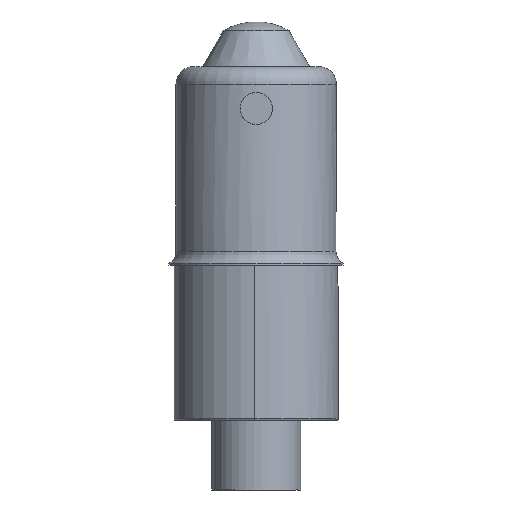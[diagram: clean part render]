
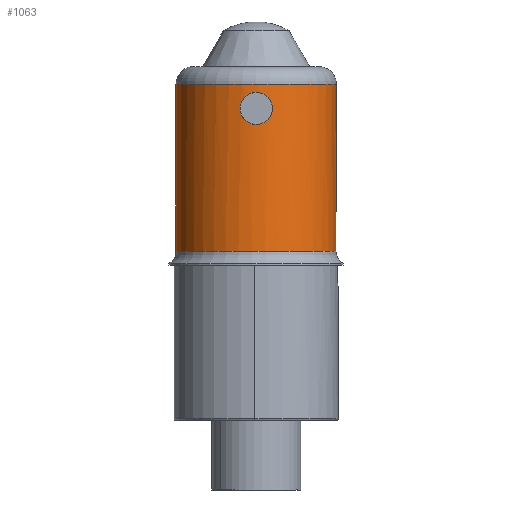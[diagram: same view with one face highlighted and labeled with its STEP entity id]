
A CAD part, front view. The second image highlights one B-rep face of the part: STEP entity #1063.
In plain terms, the highlighted cylindrical face has radius 4.5 mm (diameter 9 mm), a partial arc.
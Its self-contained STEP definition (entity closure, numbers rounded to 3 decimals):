
#16 = CARTESIAN_POINT ( 'NONE',  ( 0., -4.5, 7.9 ) ) ;
#37 = CARTESIAN_POINT ( 'NONE',  ( 0.786, -4.431, 9.254 ) ) ;
#57 = LINE ( 'NONE', #134, #4105 ) ;
#126 = CARTESIAN_POINT ( 'NONE',  ( 0., 0., 10.15 ) ) ;
#133 = ORIENTED_EDGE ( 'NONE', *, *, #3840, .T. ) ;
#134 = CARTESIAN_POINT ( 'NONE',  ( 4.5, 0., 11.15 ) ) ;
#138 = CARTESIAN_POINT ( 'NONE',  ( -0.9, -4.409, 8.682 ) ) ;
#141 = DIRECTION ( 'NONE',  ( 0., 0., 1. ) ) ;
#160 = CARTESIAN_POINT ( 'NONE',  ( -0.553, -4.467, 9.52 ) ) ;
#166 = DIRECTION ( 'NONE',  ( 0., 0., 1. ) ) ;
#170 = AXIS2_PLACEMENT_3D ( 'NONE', #2151, #2438, #4024 ) ;
#175 = CARTESIAN_POINT ( 'NONE',  ( -0.719, -4.443, 8.247 ) ) ;
#181 = VERTEX_POINT ( 'NONE', #2607 ) ;
#231 = DIRECTION ( 'NONE',  ( 1., 0., 0. ) ) ;
#291 = EDGE_CURVE ( 'NONE', #2353, #181, #512, .T. ) ;
#328 = CARTESIAN_POINT ( 'NONE',  ( 0.454, -4.478, 8.014 ) ) ;
#356 = CARTESIAN_POINT ( 'NONE',  ( 0.236, -4.495, 9.676 ) ) ;
#428 = CARTESIAN_POINT ( 'NONE',  ( 4.5, 0., 3.006 ) ) ;
#451 = CARTESIAN_POINT ( 'NONE',  ( -0.876, -4.414, 9.036 ) ) ;
#472 = CARTESIAN_POINT ( 'NONE',  ( -0.9, -4.409, 8.919 ) ) ;
#512 = CIRCLE ( 'NONE', #3139, 4.5 ) ;
#578 = CARTESIAN_POINT ( 'NONE',  ( 0., -4.5, 9.7 ) ) ;
#599 = EDGE_CURVE ( 'NONE', #2780, #1246, #1309, .T. ) ;
#680 = CIRCLE ( 'NONE', #2722, 4.5 ) ;
#783 = DIRECTION ( 'NONE',  ( -1., 0., 0. ) ) ;
#790 = CARTESIAN_POINT ( 'NONE',  ( 0., -4.5, 9.7 ) ) ;
#915 = EDGE_CURVE ( 'NONE', #3279, #1124, #1175, .T. ) ;
#922 = CARTESIAN_POINT ( 'NONE',  ( 0.119, -4.5, 7.9 ) ) ;
#952 = CARTESIAN_POINT ( 'NONE',  ( 0.554, -4.467, 8.081 ) ) ;
#1063 = ADVANCED_FACE ( 'NONE', ( #1757, #3268 ), #1550, .T. ) ;
#1064 = DIRECTION ( 'NONE',  ( 1., 0., 0. ) ) ;
#1094 = CARTESIAN_POINT ( 'NONE',  ( -0.454, -4.478, 8.014 ) ) ;
#1124 = VERTEX_POINT ( 'NONE', #4086 ) ;
#1175 = B_SPLINE_CURVE_WITH_KNOTS ( 'NONE', 3,
 ( #790, #3969, #4002, #1733, #160, #3660, #2048, #451, #472, #138, #2680, #3010, #175, #3335, #1094, #2082, #2400, #2375 ),
 .UNSPECIFIED., .F., .F.,
 ( 4, 2, 2, 2, 2, 2, 2, 2, 4 ),
 ( 0.003, 0.003, 0.004, 0.004, 0.004, 0.005, 0.005, 0.005, 0.006 ),
 .UNSPECIFIED. ) ;
#1228 = EDGE_CURVE ( 'NONE', #2353, #1246, #57, .T. ) ;
#1246 = VERTEX_POINT ( 'NONE', #428 ) ;
#1309 = CIRCLE ( 'NONE', #1966, 4.5 ) ;
#1403 = DIRECTION ( 'NONE',  ( 0., 0., -1. ) ) ;
#1421 = CARTESIAN_POINT ( 'NONE',  ( 4.472, -0.5, 3.006 ) ) ;
#1550 = CYLINDRICAL_SURFACE ( 'NONE', #170, 4.5 ) ;
#1613 = CARTESIAN_POINT ( 'NONE',  ( 0.719, -4.443, 8.247 ) ) ;
#1645 = ORIENTED_EDGE ( 'NONE', *, *, #1228, .F. ) ;
#1733 = CARTESIAN_POINT ( 'NONE',  ( -0.453, -4.478, 9.586 ) ) ;
#1757 = FACE_OUTER_BOUND ( 'NONE', #1968, .T. ) ;
#1853 = DIRECTION ( 'NONE',  ( 0., 0., 1. ) ) ;
#1911 = ORIENTED_EDGE ( 'NONE', *, *, #291, .T. ) ;
#1922 = CARTESIAN_POINT ( 'NONE',  ( 0.72, -4.443, 9.353 ) ) ;
#1966 = AXIS2_PLACEMENT_3D ( 'NONE', #2797, #1853, #231 ) ;
#1968 = EDGE_LOOP ( 'NONE', ( #1645, #1911, #3237, #133, #3662, #3085 ) ) ;
#1970 = CARTESIAN_POINT ( 'NONE',  ( 0.9, -4.409, 8.917 ) ) ;
#2043 = VERTEX_POINT ( 'NONE', #2541 ) ;
#2048 = CARTESIAN_POINT ( 'NONE',  ( -0.786, -4.431, 9.255 ) ) ;
#2052 = CARTESIAN_POINT ( 'NONE',  ( 0., 0., 0.793 ) ) ;
#2082 = CARTESIAN_POINT ( 'NONE',  ( -0.238, -4.495, 7.924 ) ) ;
#2123 = EDGE_CURVE ( 'NONE', #1124, #3279, #3204, .T. ) ;
#2151 = CARTESIAN_POINT ( 'NONE',  ( 0., 0., 11.15 ) ) ;
#2175 = EDGE_CURVE ( 'NONE', #181, #2043, #2241, .T. ) ;
#2241 = LINE ( 'NONE', #2575, #4054 ) ;
#2262 = EDGE_LOOP ( 'NONE', ( #2615, #3163 ) ) ;
#2271 = CARTESIAN_POINT ( 'NONE',  ( 0.876, -4.414, 8.563 ) ) ;
#2353 = VERTEX_POINT ( 'NONE', #3526 ) ;
#2375 = CARTESIAN_POINT ( 'NONE',  ( 0., -4.5, 7.9 ) ) ;
#2400 = CARTESIAN_POINT ( 'NONE',  ( -0.119, -4.5, 7.9 ) ) ;
#2438 = DIRECTION ( 'NONE',  ( 0., 0., -1. ) ) ;
#2541 = CARTESIAN_POINT ( 'NONE',  ( -4.5, 0., 0.793 ) ) ;
#2575 = CARTESIAN_POINT ( 'NONE',  ( -4.5, 0., 11.15 ) ) ;
#2591 = CARTESIAN_POINT ( 'NONE',  ( 0.786, -4.431, 8.347 ) ) ;
#2607 = CARTESIAN_POINT ( 'NONE',  ( -4.5, 0., 10.15 ) ) ;
#2615 = ORIENTED_EDGE ( 'NONE', *, *, #2123, .F. ) ;
#2680 = CARTESIAN_POINT ( 'NONE',  ( -0.876, -4.414, 8.564 ) ) ;
#2722 = AXIS2_PLACEMENT_3D ( 'NONE', #2052, #166, #783 ) ;
#2780 = VERTEX_POINT ( 'NONE', #1421 ) ;
#2797 = CARTESIAN_POINT ( 'NONE',  ( 0., 0., 3.006 ) ) ;
#2828 = LINE ( 'NONE', #3040, #4082 ) ;
#2904 = CARTESIAN_POINT ( 'NONE',  ( 0.877, -4.414, 9.035 ) ) ;
#3010 = CARTESIAN_POINT ( 'NONE',  ( -0.786, -4.431, 8.347 ) ) ;
#3040 = CARTESIAN_POINT ( 'NONE',  ( 4.472, -0.5, 11.15 ) ) ;
#3085 = ORIENTED_EDGE ( 'NONE', *, *, #599, .T. ) ;
#3116 = CARTESIAN_POINT ( 'NONE',  ( 4.472, -0.5, 0.793 ) ) ;
#3139 = AXIS2_PLACEMENT_3D ( 'NONE', #126, #1403, #1064 ) ;
#3163 = ORIENTED_EDGE ( 'NONE', *, *, #915, .F. ) ;
#3204 = B_SPLINE_CURVE_WITH_KNOTS ( 'NONE', 3,
 ( #16, #922, #3643, #328, #952, #1613, #2591, #2271, #3525, #1970, #2904, #37, #1922, #3574, #3215, #356, #3247, #3911 ),
 .UNSPECIFIED., .F., .F.,
 ( 4, 2, 2, 2, 2, 2, 2, 2, 4 ),
 ( 0., 0., 0.001, 0.001, 0.001, 0.002, 0.002, 0.002, 0.003 ),
 .UNSPECIFIED. ) ;
#3215 = CARTESIAN_POINT ( 'NONE',  ( 0.454, -4.478, 9.586 ) ) ;
#3237 = ORIENTED_EDGE ( 'NONE', *, *, #2175, .T. ) ;
#3247 = CARTESIAN_POINT ( 'NONE',  ( 0.118, -4.5, 9.7 ) ) ;
#3268 = FACE_BOUND ( 'NONE', #2262, .T. ) ;
#3279 = VERTEX_POINT ( 'NONE', #578 ) ;
#3333 = DIRECTION ( 'NONE',  ( 0., 0., -1. ) ) ;
#3335 = CARTESIAN_POINT ( 'NONE',  ( -0.554, -4.467, 8.081 ) ) ;
#3381 = VERTEX_POINT ( 'NONE', #3116 ) ;
#3525 = CARTESIAN_POINT ( 'NONE',  ( 0.9, -4.409, 8.682 ) ) ;
#3526 = CARTESIAN_POINT ( 'NONE',  ( 4.5, 0., 10.15 ) ) ;
#3574 = CARTESIAN_POINT ( 'NONE',  ( 0.553, -4.467, 9.52 ) ) ;
#3643 = CARTESIAN_POINT ( 'NONE',  ( 0.236, -4.495, 7.924 ) ) ;
#3660 = CARTESIAN_POINT ( 'NONE',  ( -0.719, -4.443, 9.354 ) ) ;
#3662 = ORIENTED_EDGE ( 'NONE', *, *, #3809, .T. ) ;
#3809 = EDGE_CURVE ( 'NONE', #3381, #2780, #2828, .T. ) ;
#3840 = EDGE_CURVE ( 'NONE', #2043, #3381, #680, .T. ) ;
#3911 = CARTESIAN_POINT ( 'NONE',  ( 0., -4.5, 9.7 ) ) ;
#3969 = CARTESIAN_POINT ( 'NONE',  ( -0.118, -4.5, 9.7 ) ) ;
#4002 = CARTESIAN_POINT ( 'NONE',  ( -0.236, -4.495, 9.676 ) ) ;
#4024 = DIRECTION ( 'NONE',  ( -1., 0., 0. ) ) ;
#4054 = VECTOR ( 'NONE', #4149, 1000. ) ;
#4082 = VECTOR ( 'NONE', #141, 1000. ) ;
#4086 = CARTESIAN_POINT ( 'NONE',  ( 0., -4.5, 7.9 ) ) ;
#4105 = VECTOR ( 'NONE', #3333, 1000. ) ;
#4149 = DIRECTION ( 'NONE',  ( 0., 0., -1. ) ) ;
